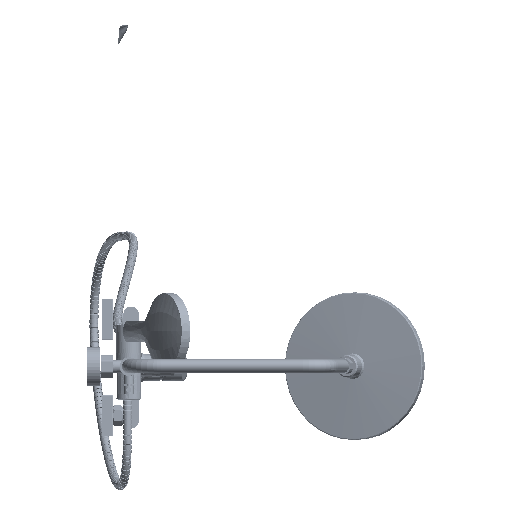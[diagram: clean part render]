
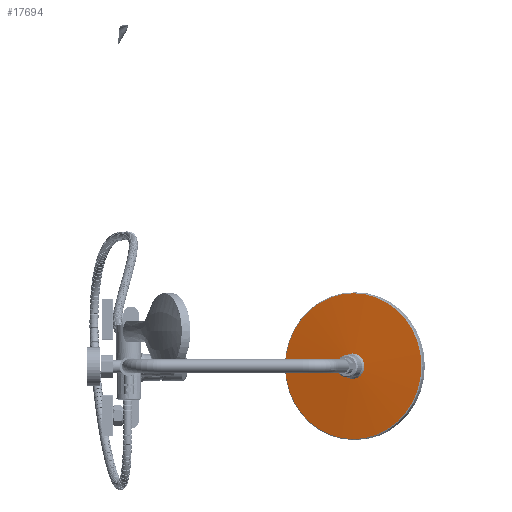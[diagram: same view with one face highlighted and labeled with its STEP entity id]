
A CAD part, top view. The second image highlights one B-rep face of the part: STEP entity #17694.
In plain terms, the highlighted spherical face has radius 1655.12 mm.
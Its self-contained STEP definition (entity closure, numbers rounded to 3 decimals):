
#166=SPHERICAL_SURFACE('',#65015,1655.125);
#5115=FACE_BOUND('',#28142,.T.);
#5116=FACE_BOUND('',#28143,.T.);
#13344=CIRCLE('',#65013,113.603);
#13345=CIRCLE('',#65014,17.5);
#17694=ADVANCED_FACE('',(#5115,#5116),#166,.T.);
#28142=EDGE_LOOP('',(#39993));
#28143=EDGE_LOOP('',(#39994));
#39993=ORIENTED_EDGE('',*,*,#54916,.T.);
#39994=ORIENTED_EDGE('',*,*,#54917,.F.);
#48668=VERTEX_POINT('',#106736);
#48669=VERTEX_POINT('',#106738);
#54916=EDGE_CURVE('',#48668,#48668,#13344,.T.);
#54917=EDGE_CURVE('',#48669,#48669,#13345,.T.);
#65013=AXIS2_PLACEMENT_3D('',#106735,#79944,#79945);
#65014=AXIS2_PLACEMENT_3D('',#106737,#79946,#79947);
#65015=AXIS2_PLACEMENT_3D('',#106739,#79948,#79949);
#79944=DIRECTION('',(-0.359,0.,0.933));
#79945=DIRECTION('',(-0.933,0.,-0.359));
#79946=DIRECTION('',(-0.359,0.,0.933));
#79947=DIRECTION('',(-0.933,0.,-0.359));
#79948=DIRECTION('',(-0.359,0.,0.933));
#79949=DIRECTION('',(-0.933,0.,-0.359));
#106735=CARTESIAN_POINT('',(346.29,-0.015,1196.114));
#106736=CARTESIAN_POINT('',(240.269,-0.015,1155.307));
#106737=CARTESIAN_POINT('',(344.921,-0.015,1199.671));
#106738=CARTESIAN_POINT('',(328.589,-0.015,1193.385));
#106739=CARTESIAN_POINT('',(939.421,-0.015,-344.901));
